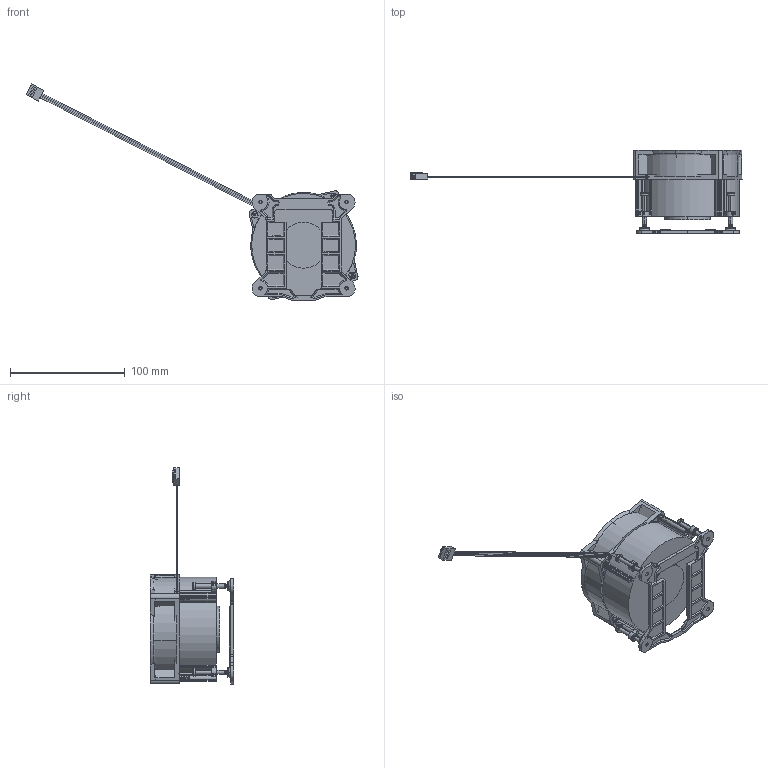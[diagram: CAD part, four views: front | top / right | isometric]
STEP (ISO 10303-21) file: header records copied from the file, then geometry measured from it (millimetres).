
FILE_DESCRIPTION((''),'2;1');
FILE_NAME('RG3229-60R-LN_ME_ASM','2022-11-21T',('User'),(''),'PRO/ENGINEER BY PARAMETRIC TECHNOLOGY CORPORATION, 2017170','PRO/ENGINEER BY PARAMETRIC TECHNOLOGY CORPORATION, 2017170','');
FILE_SCHEMA(('CONFIG_CONTROL_DESIGN'));
Length unit declared in the file: millimetre
Products named in the file (17): D90X35_A_C_T__SINK__1; CU-PIN_33_1; D90_35H_AC_ASSY_ASM_1_ASM; DEAKTOP_SCREW_D7_30_8L_1; E-RING_1; DESKTOP_SCREW_ASSY_ASM_1_ASM; DESKTOP_D90_35H_AC_ASSY_ASM_1_ASM; PRT0004_1; 8025FRAME_YANGXIN_5_1; ASM0001_ASM_1_ASM_ASM_ASM_1_ASM; ASM0003_ASM_ASM_1_ASM; 4P-PLUGZ_1; SCERW3_1; RGE_ST002_1_LABEL_R30_1; F128025BLAF325BR_ASM_1_ASM; 901-TMABP001_1; RG3229-60R-LN_ME_ASM
Assembly tree (22 placements, depth 5):
  RG3229-60R-LN_ME_ASM
    DESKTOP_D90_35H_AC_ASSY_ASM_1_ASM
      D90_35H_AC_ASSY_ASM_1_ASM
        D90X35_A_C_T__SINK__1
        CU-PIN_33_1
      DESKTOP_SCREW_ASSY_ASM_1_ASM  x4
        DEAKTOP_SCREW_D7_30_8L_1
        E-RING_1
    F128025BLAF325BR_ASM_1_ASM
      ASM0003_ASM_ASM_1_ASM
        ASM0001_ASM_1_ASM_ASM_ASM_1_ASM
          PRT0004_1
          8025FRAME_YANGXIN_5_1
      4P-PLUGZ_1
      SCERW3_1  x4
      RGE_ST002_1_LABEL_R30_1
    901-TMABP001_1
Bounding box: 288.93 x 72.7 x 188.14 mm (x, y, z)
Volume: 394670.3 mm3; surface area: 95058.7 mm2
Topology: 19 solids, 19 shells, 2524 faces, 7094 edges, 4703 vertices
Faces by surface type: plane 1494, cylinder 689, extrusion 99, bspline 89, cone 80, torus 72, sphere 1
Entity records: 58134 total; most frequent: CARTESIAN_POINT 18096, ORIENTED_EDGE 8568, DIRECTION 7807, EDGE_CURVE 4284, VERTEX_POINT 2855, VECTOR 2829, LINE 2733, AXIS2_PLACEMENT_3D 2489
